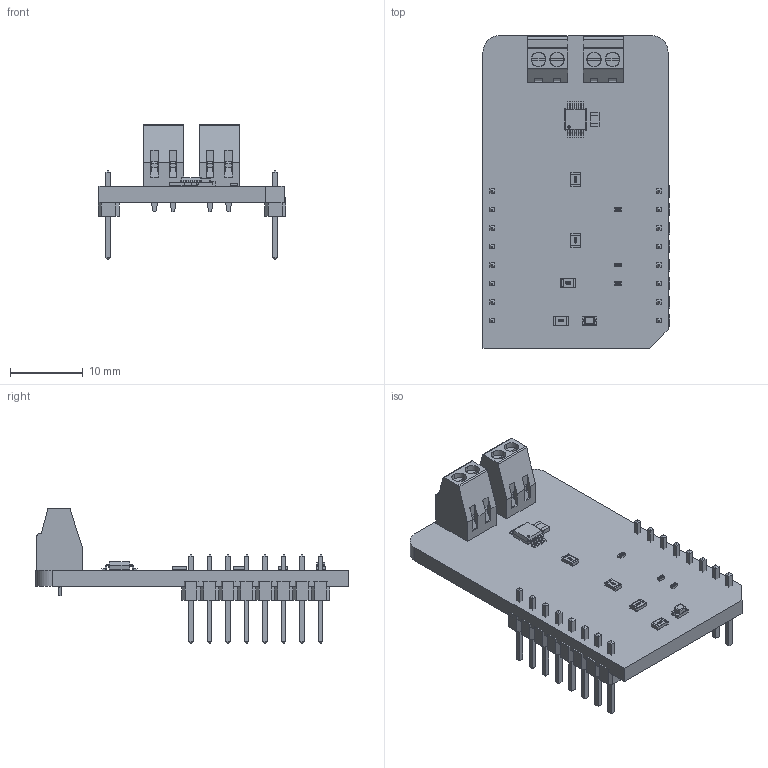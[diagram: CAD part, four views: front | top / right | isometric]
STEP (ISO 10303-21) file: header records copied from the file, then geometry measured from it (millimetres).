
FILE_DESCRIPTION(('Open CASCADE Model'),'2;1');
FILE_NAME('Open CASCADE Shape Model','2021-05-28T13:20:00',('Author'),( 'Open CASCADE'),'Open CASCADE STEP processor 6.8','Open CASCADE 6.8' ,'Unknown');
FILE_SCHEMA(('AUTOMOTIVE_DESIGN { 1 0 10303 214 1 1 1 1 }'));
Length unit declared in the file: millimetre
Products named in the file (27): PCB; Board; R1; User_Library-R_0805; LD1; led_0805_green; MBD1; Header_1x8; Free-Models; 1240637040; User_Library-PinHeaderX5-1_PinHeaderX5_Body_1; User_Library-PinHeaderX5-1_PinHeaderX5_Pins_1; C1; User_Library-SMD_CAPACITOR0805; IN1; ScrewTerminal_2.54; IN2; JP1; JP2; JP3; R2; User_Library-R_0402; R3; R4; U1; msop-10
Assembly tree (34 placements, depth 7):
  PCB
    Board
    R1
      User_Library-R_0805
    LD1
      led_0805_green
    MBD1
      Header_1x8  x2
        PCB
          Free-Models
            1240637040  x2
              User_Library-PinHeaderX5-1_PinHeaderX5_Body_1
              User_Library-PinHeaderX5-1_PinHeaderX5_Pins_1
    C1
      User_Library-SMD_CAPACITOR0805
    IN1
      ScrewTerminal_2.54
    IN2
      ScrewTerminal_2.54
    JP1
      User_Library-R_0805
    JP2
      User_Library-R_0805
    JP3
      User_Library-R_0805
    R2
      User_Library-R_0402
    R3
      User_Library-R_0402
    R4
      User_Library-R_0402
    U1
      msop-10
Bounding box: 25.78 x 42.93 x 18.61 mm (x, y, z)
Volume: 3244.3 mm3; surface area: 5269 mm2
Topology: 54 solids, 54 shells, 1702 faces, 4380 edges, 2836 vertices
Faces by surface type: plane 1283, bspline 246, cylinder 151, sphere 12, cone 10
Entity records: 30420 total; most frequent: CARTESIAN_POINT 8257, ORIENTED_EDGE 3762, DIRECTION 3377, EDGE_CURVE 1881, LINE 1493, VECTOR 1493, VERTEX_POINT 1222, AXIS2_PLACEMENT_3D 942
